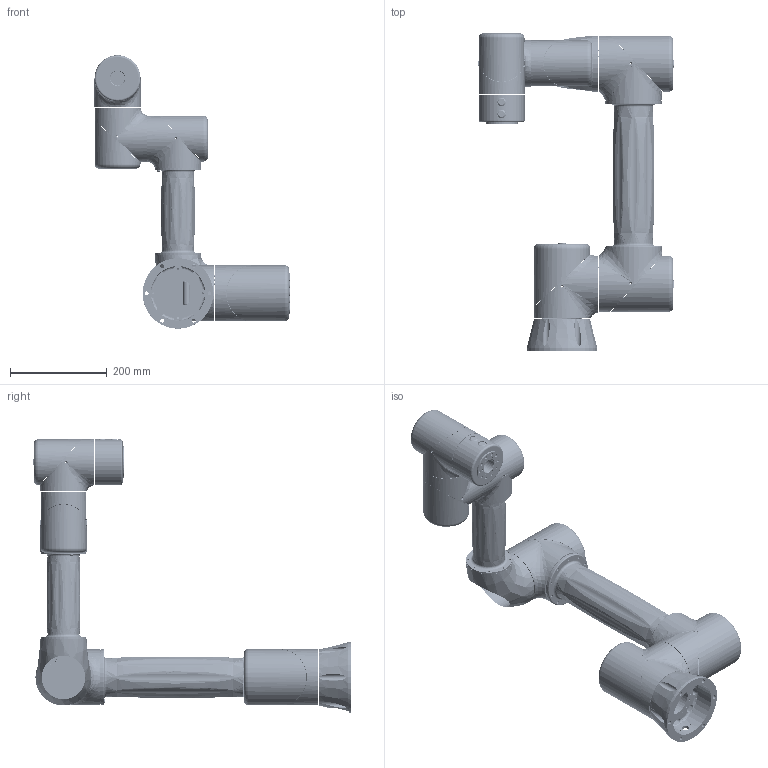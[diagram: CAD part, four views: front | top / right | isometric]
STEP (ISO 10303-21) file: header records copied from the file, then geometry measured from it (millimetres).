
FILE_DESCRIPTION((''),'2;1');
FILE_NAME('ASM0001_ASM','2020-02-29T13:47:13',('Jasonyang'),(''),'CREO PARAMETRIC BY PTC INC, 2019224','CREO PARAMETRIC BY PTC INC, 2019224','');
FILE_SCHEMA(('CONFIG_CONTROL_DESIGN'));
Length unit declared in the file: millimetre
Products named in the file (3): A0001; A0002; ASM0001_ASM
Assembly tree (2 placements, depth 2):
  ASM0001_ASM
    A0001
    A0002
Bounding box: 404.01 x 656.5 x 565.5 mm (x, y, z)
Surface area: 1306815.5 mm2 (no closed solid volume)
Topology: 0 solids, 33 shells, 3161 faces, 8944 edges, 5910 vertices
Faces by surface type: cylinder 1370, plane 850, extrusion 361, torus 238, cone 206, bspline 136
Entity records: 168675 total; most frequent: CARTESIAN_POINT 87341, ORIENTED_EDGE 17524, DIRECTION 15597, EDGE_CURVE 8783, VERTEX_POINT 5910, AXIS2_PLACEMENT_3D 5868, EDGE_LOOP 4115, VECTOR 3861
